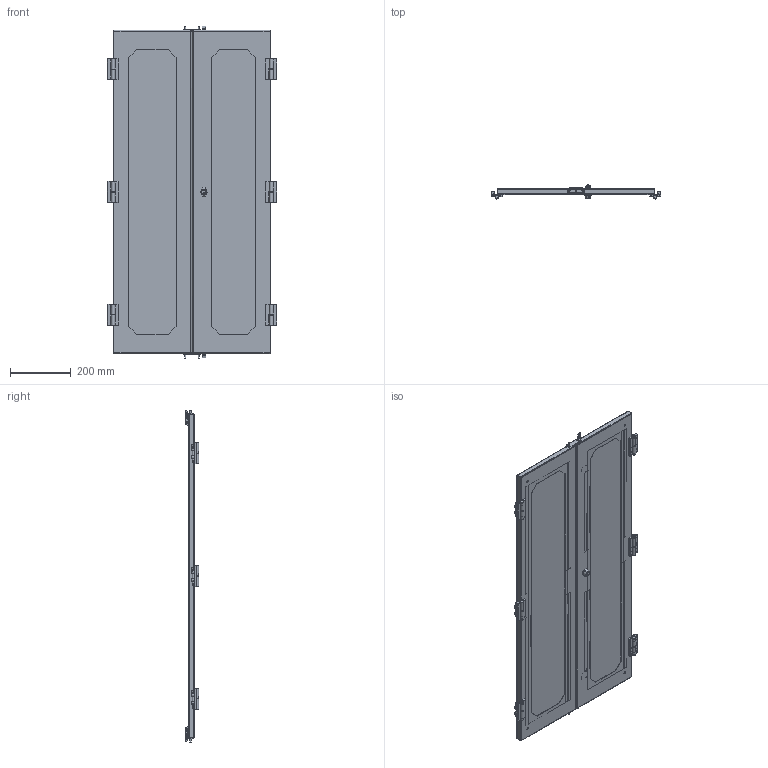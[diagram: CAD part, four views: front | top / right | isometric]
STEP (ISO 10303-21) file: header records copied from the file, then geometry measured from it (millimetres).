
FILE_DESCRIPTION(/* description */ ('Unknown'),/* implementation_level */ '2;1');
FILE_NAME(/* name */ 'C4BD2442V',/* time_stamp */ '2025-02-13T14:39:42-05:00',/* author */ ('Unknown'),/* organization */ ('Unknown'),/* preprocessor_version */ 'ST-DEVELOPER v18.104',/* originating_system */ 'Solid Edge',/* authorisation */ 'Unknown');
FILE_SCHEMA (('AUTOMOTIVE_DESIGN {1 0 10303 214 3 1 1}'));
Products named in the file (35): C4BD2442V; COM56744-1; std26020; COM55940-6; COM57778-17; GRM109956; HNG14615; HNG14615-2; HNG14615-4; HNG14615-3; HNG14615-1; HNG14616; HNG14616-1; HNG14616-5; HNG14616-2; COM56745-1; COM55857; COM55940-4; COM57778-12; COM55846-4; RVT17753; COM55856-4; WAM25493; COM55858; LOK10018-B; COM57435; GSK10053-1.50; STD21899; MLD87968; 6_32 STEEL NYLON-INSERT LOCKNUT; 6_32 x 7_16 PAN HEAD PHILLIPS MACHINE SCREW
Assembly tree (61 placements, depth 4):
  C4BD2442V
    COM56744-1
      std26020  x2
      COM55940-6
      COM56744-1
      COM57778-17  x4
    GRM109956  x2
    HNG14615  x3
      HNG14615-2
      HNG14615-4
      HNG14615-3
      HNG14615-1
    HNG14616  x3
      HNG14616-1
      HNG14616-5
        HNG14616-2
        HNG14615-3
      HNG14615-4
      HNG14615-1
    COM56745-1
      COM55857  x2
      std26020  x2
      COM55940-4
      COM56745-1
      COM57778-12  x2
      COM57778-17  x2
    COM55846-4
      RVT17753  x2
      COM55856-4  x2
      WAM25493  x2
      COM55858
    LOK10018-B
    COM57435  x2
      GSK10053-1.50
      STD21899
      COM57435
    MLD87968  x2
      6_32 STEEL NYLON-INSERT LOCKNUT
      6_32 x 7_16 PAN HEAD PHILLIPS MACHINE SCREW
      MLD87968
Bounding box: 555.87 x 45.1 x 1090.9 mm (x, y, z)
Volume: 1406738.1 mm3; surface area: 1836942 mm2
Topology: 79 solids, 79 shells, 5249 faces, 14783 edges, 10185 vertices
Faces by surface type: plane 3034, cylinder 1491, bspline 245, sphere 180, torus 156, cone 143
Full cylindrical faces by diameter (mm): 2.821 x2, 2.937 x6, 3.505 x8, 4.166 x4, 4.191 x4, 4.5 x4, 4.651 x2, 4.775 x6, 4.978 x4, 5.08 x2, 5.969 x4, 6 x18, 6.1 x6, 6.2 x24, 6.35 x6, 6.731 x2, 6.858 x2, 8.89 x2, 9.95 x12, 10.16 x2, 10.312 x12, 11.049 x1, 11.557 x2, 13.589 x1, 13.97 x5, 20.015 x1
Entity records: 55962 total; most frequent: CARTESIAN_POINT 15642, ORIENTED_EDGE 8466, DIRECTION 7208, EDGE_CURVE 4233, VERTEX_POINT 2998, AXIS2_PLACEMENT_3D 2624, LINE 1960, VECTOR 1960
